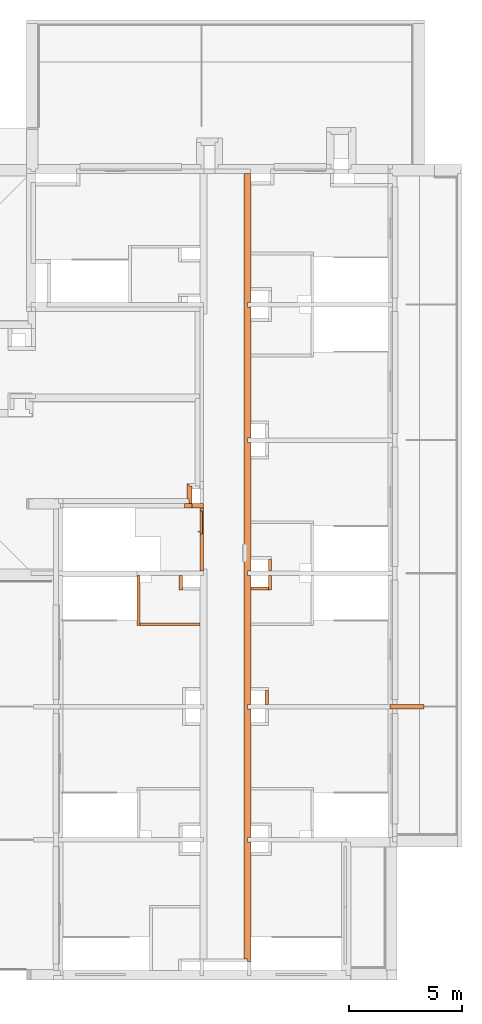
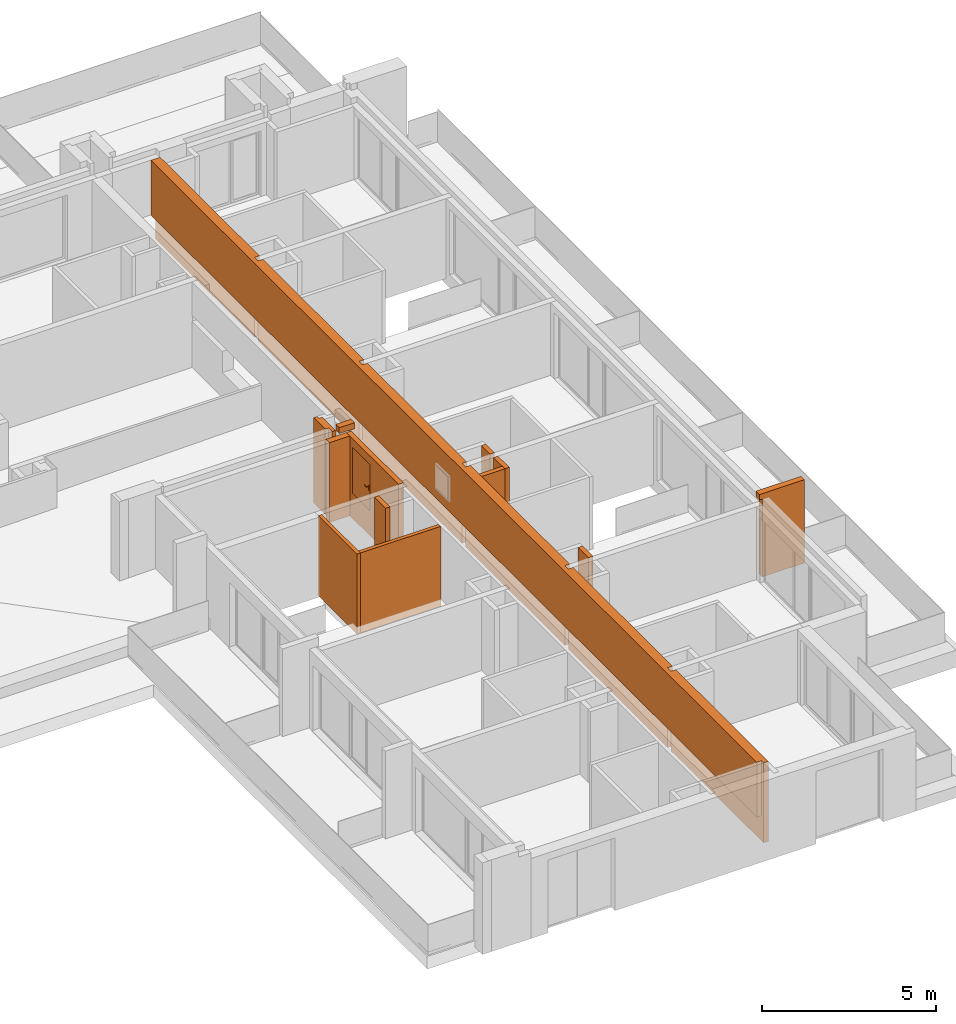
# One storey, part 28 of 30: 13 proxies, 1 opening.
"""IFC2X3 building model written with IfcOpenShell, lengths in millimetres."""

import ifcopenshell
import ifcopenshell.guid

model = None  # the IFC model being written
_history = None  # IfcOwnerHistory: only IFC2X3 demands one
_inside = {}  # id of a spatial element -> (the spatial element, [elements in it])
_under = {}  # id of a project, library or spatial element -> (it, [spatial elements below it])
_declared = {}  # id of a project -> (the project, [libraries it declares])
_typed = {}  # id of a type object -> (the type object, [elements of that type])
_made_of = {}  # id of a material, layer set ... -> (it, [elements and type objects made of it])


def new_model(schema):
    """Start an empty IFC model of exactly this schema.

    Asked for "IFC4X3", IfcOpenShell would pick the latest addendum, in which some entities
    have other attributes; the version numbers below select the first issue.
    IFC2X3 requires an IfcOwnerHistory on every rooted entity: one is made here for all.
    """
    global model, _history
    if schema == "IFC4X3":
        model = ifcopenshell.file(schema_version=(4, 3, 0, 0))
    else:
        model = ifcopenshell.file(schema=schema)
    _inside.clear()
    _under.clear()
    _declared.clear()
    _typed.clear()
    _made_of.clear()
    _history = None
    if model.schema == "IFC2X3":
        org = make("IfcOrganization", Name="unknown")
        user = make(
            "IfcPersonAndOrganization",
            ThePerson=make("IfcPerson", FamilyName="unknown"),
            TheOrganization=org,
        )
        app = make(
            "IfcApplication",
            ApplicationDeveloper=org,
            Version="unknown",
            ApplicationFullName="unknown",
            ApplicationIdentifier="unknown",
        )
        _history = make(
            "IfcOwnerHistory",
            OwningUser=user,
            OwningApplication=app,
            ChangeAction="ADDED",
            CreationDate=0,
        )
    return model


def make(cls, **values):
    """One entity of the class cls with the attributes given. An attribute that is None is left unset."""
    return model.create_entity(
        cls, **{name: value for name, value in values.items() if value is not None}
    )


def entity(cls, *values):
    """Any entity or typed value of the class cls, its attributes in the order of the schema. None: left unset."""
    e = model.create_entity(cls)
    for i, value in enumerate(values):
        if value is not None:
            e[i] = value
    return e


def rooted(cls, **values):
    """An entity with a GlobalId (a new one), such as an element, a storey or a relation."""
    return make(cls, GlobalId=ifcopenshell.guid.new(), OwnerHistory=_history, **values)


def si_unit(unit_type, name, prefix=None):
    """IfcSIUnit, for example si_unit("LENGTHUNIT", "METRE", prefix="MILLI")."""
    return make("IfcSIUnit", UnitType=unit_type, Prefix=prefix, Name=name)


def converted_unit(unit_type, name, factor, base, dimensions=None, offset=None):
    """IfcConversionBasedUnit, such as the inch: factor (a typed value) times the base unit."""
    return make(
        "IfcConversionBasedUnit"
        if offset is None
        else "IfcConversionBasedUnitWithOffset",
        ConversionOffset=offset,
        Dimensions=None
        if dimensions is None
        else entity("IfcDimensionalExponents", *dimensions),
        UnitType=unit_type,
        Name=name,
        ConversionFactor=make(
            "IfcMeasureWithUnit", ValueComponent=factor, UnitComponent=base
        ),
    )


def derived_unit(unit_type, elements):
    """IfcDerivedUnit: a product of units, each with its exponent."""
    return make(
        "IfcDerivedUnit",
        Elements=[
            make("IfcDerivedUnitElement", Unit=unit, Exponent=power)
            for unit, power in elements
        ],
        UnitType=unit_type,
    )


def money_unit(currency):
    """IfcMonetaryUnit."""
    return make("IfcMonetaryUnit", Currency=currency)


def assignment(units):
    """IfcUnitAssignment: the units of a project."""
    return None if units is None else make("IfcUnitAssignment", Units=units)


def point(xyz):
    """IfcCartesianPoint."""
    return None if xyz is None else make("IfcCartesianPoint", Coordinates=xyz)


def direction(xyz):
    """IfcDirection."""
    return None if xyz is None else make("IfcDirection", DirectionRatios=xyz)


def frame(location, z_axis=None, x_axis=None):
    """IfcAxis2Placement3D, a coordinate frame: its origin and axes. An axis left out is left unset."""
    return make(
        "IfcAxis2Placement3D",
        Location=point(location),
        Axis=direction(z_axis),
        RefDirection=direction(x_axis),
    )


def frame_2d(location, x_axis=None):
    """IfcAxis2Placement2D, a coordinate frame in the plane: its origin and x axis."""
    return make(
        "IfcAxis2Placement2D", Location=point(location), RefDirection=direction(x_axis)
    )


def origin_with_axes():
    """The frame at (0, 0, 0) with the z axis (0, 0, 1) and the x axis (1, 0, 0) written out."""
    return frame((0.0, 0.0, 0.0), z_axis=(0.0, 0.0, 1.0), x_axis=(1.0, 0.0, 0.0))


def origin_2d_with_axis():
    """The frame at (0, 0) in the plane with the x axis (1, 0) written out."""
    return frame_2d((0.0, 0.0), x_axis=(1.0, 0.0))


def place(relative_to, where):
    """IfcLocalPlacement: puts the frame where relative to a parent placement (None: the world)."""
    return make(
        "IfcLocalPlacement", PlacementRelTo=relative_to, RelativePlacement=where
    )


def context(
    kind, dimensions, precision=None, world=None, true_north=None, identifier=None
):
    """IfcGeometricRepresentationContext, for example the 3D "Model" context."""
    return make(
        "IfcGeometricRepresentationContext",
        ContextIdentifier=identifier,
        ContextType=kind,
        CoordinateSpaceDimension=dimensions,
        Precision=precision,
        WorldCoordinateSystem=world,
        TrueNorth=true_north,
    )


def subcontext(parent, identifier, kind, view, scale=None):
    """IfcGeometricRepresentationSubContext, for example "Body" below "Model"."""
    return make(
        "IfcGeometricRepresentationSubContext",
        ContextIdentifier=identifier,
        ContextType=kind,
        ParentContext=parent,
        TargetScale=scale,
        TargetView=view,
    )


def project(units=None, contexts=None):
    """IfcProject with its units and contexts."""
    return rooted(
        "IfcProject",
        Name="project",
        RepresentationContexts=contexts,
        UnitsInContext=assignment(units),
    )


def spatial(cls, under=None, at=None, **own):
    """A site, building, storey or space (cls), placed at a placement, below another one or the project."""
    s = rooted(cls, ObjectPlacement=at, **own)
    if under is not None:
        _under.setdefault(under.id(), (under, []))[1].append(s)
    return s


def profile(cls, at=None, kind="AREA", **sizes):
    """A parametric profile (cls). Its sizes go by their IFC names, for example OverallWidth=200.0."""
    return make(cls, ProfileType=kind, Position=at, **sizes)


def rectangle(**sizes):
    """IfcRectangleProfileDef."""
    return profile("IfcRectangleProfileDef", **sizes)


def extrude(swept, where, along, depth):
    """IfcExtrudedAreaSolid: the profile swept, set in the frame where, extruded along a direction by depth."""
    return make(
        "IfcExtrudedAreaSolid",
        SweptArea=swept,
        Position=where,
        ExtrudedDirection=direction(along),
        Depth=depth,
    )


def faces_of(points, faces, orient=None, outer=None):
    """IfcFace entities. A face is a list of loops; a loop is a list of indices into points, from 0.

    orient and outer hold one flag for each loop. By default every Orientation is true, the
    first loop of a face is its IfcFaceOuterBound and the others are IfcFaceBound.
    """
    made = []
    for i, loops in enumerate(faces):
        bounds = []
        for j, loop in enumerate(loops):
            is_outer = j == 0 if outer is None else outer[i][j]
            bounds.append(
                make(
                    "IfcFaceOuterBound" if is_outer else "IfcFaceBound",
                    Bound=make("IfcPolyLoop", Polygon=[points[k] for k in loop]),
                    Orientation=True if orient is None else orient[i][j],
                )
            )
        made.append(make("IfcFace", Bounds=bounds))
    return made


def open_shell(faces, orient=None, outer=None):
    """The faces of one IfcOpenShell. surface_model builds it on its shared points."""
    return ("IfcOpenShell", faces, orient, outer)


def faceted_brep(points, faces, orient=None, outer=None, voids=None):
    """IfcFacetedBrep: a solid bounded by flat faces; with voids (closed shells), ...WithVoids."""
    shared = [point(p) for p in points]
    hull = make("IfcClosedShell", CfsFaces=faces_of(shared, faces, orient, outer))
    if voids is None:
        return make("IfcFacetedBrep", Outer=hull)
    return make(
        "IfcFacetedBrepWithVoids",
        Outer=hull,
        Voids=[
            make(cls, CfsFaces=faces_of(shared, fs, o, b)) for cls, fs, o, b in voids
        ],
    )


def surface_model(cls, points, shells):
    """IfcFaceBasedSurfaceModel or IfcShellBasedSurfaceModel (cls): surfaces that need not close."""
    shared = [point(p) for p in points]
    made = [make(c, CfsFaces=faces_of(shared, fs, o, b)) for c, fs, o, b in shells]
    if cls == "IfcFaceBasedSurfaceModel":
        return make(cls, FbsmFaces=made)
    return make(cls, SbsmBoundary=made)


def shape(context_of_items, identifier, shape_type, items):
    """IfcShapeRepresentation: the items that make up one representation, for example the "Body"."""
    return make(
        "IfcShapeRepresentation",
        ContextOfItems=context_of_items,
        RepresentationIdentifier=identifier,
        RepresentationType=shape_type,
        Items=items,
    )


def material(Name=None, Category=None):
    """IfcMaterial."""
    return make("IfcMaterial", Name=Name, Category=Category)


def material_list(materials):
    """IfcMaterialList."""
    return make("IfcMaterialList", Materials=materials)


def made_of(thing, what):
    """Note that an element or type object is made of a material, layer set ...; save() writes the relation."""
    if what is not None:
        _made_of.setdefault(what.id(), (what, []))[1].append(thing)
    return thing


def type_object(cls, material=None, **own):
    """A type object (cls), such as IfcWallType, which elements share."""
    return made_of(rooted(cls, **own), material)


def element(
    cls,
    number,
    at=None,
    inside=None,
    cuts=None,
    type_object=None,
    material=None,
    context=None,
    identifier="Body",
    shape_type=None,
    held_by="IfcProductDefinitionShape",
    body=None,
    shapes=None,
    **own,
):
    """One element of the class cls, such as IfcWall. Its Tag is "e" and its number.

    at: its placement. inside: the storey or other place that contains it. cuts: it is an
    opening in that element (IfcRelVoidsElement). A single representation is given by context,
    identifier, shape_type and body (its items); several are given by shapes. held_by: the class
    of the entity that holds the representations. save() writes the other relations.
    """
    e = rooted(cls, Tag="e%d" % number, ObjectPlacement=at, **own)
    if body is not None:
        shapes = [shape(context, identifier, shape_type, body)]
    if shapes is not None:
        e.Representation = make(held_by, Representations=shapes)
    if inside is not None:
        _inside.setdefault(inside.id(), (inside, []))[1].append(e)
    if cuts is not None:
        rooted(
            "IfcRelVoidsElement", RelatingBuildingElement=cuts, RelatedOpeningElement=e
        )
    if type_object is not None:
        _typed.setdefault(type_object.id(), (type_object, []))[1].append(e)
    return made_of(e, material)


def fill(opening, filler):
    """IfcRelFillsElement: the door or window that sits in an opening."""
    return rooted(
        "IfcRelFillsElement",
        RelatingOpeningElement=opening,
        RelatedBuildingElement=filler,
    )


def aggregate(whole, parts):
    """IfcRelAggregates: a whole, such as a stair, and the parts it consists of."""
    return rooted("IfcRelAggregates", RelatingObject=whole, RelatedObjects=parts)


def save(model, path):
    """Write the relations noted so far, then the file.

    IfcRelAggregates (storeys below a building ...), IfcRelContainedInSpatialStructure (elements
    in a storey), IfcRelDefinesByType, IfcRelAssociatesMaterial and IfcRelDeclares: one each for
    every whole, place, type object, material and project.
    """
    for whole, parts in _under.values():
        aggregate(whole, parts)
    for where, things in _inside.values():
        rooted(
            "IfcRelContainedInSpatialStructure",
            RelatedElements=things,
            RelatingStructure=where,
        )
    for kind, things in _typed.values():
        rooted("IfcRelDefinesByType", RelatedObjects=things, RelatingType=kind)
    for what, things in _made_of.values():
        rooted("IfcRelAssociatesMaterial", RelatedObjects=things, RelatingMaterial=what)
    for by, libraries in _declared.values():
        rooted("IfcRelDeclares", RelatingContext=by, RelatedDefinitions=libraries)
    model.write(path)


model = new_model("IFC2X3")

# Units and contexts
model_context = context("Model", 3, precision=0.01, world=origin_with_axes(), true_north=direction((0.34421633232, 0.938890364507)))
body_context = subcontext(model_context, "Body", "Model", "MODEL_VIEW")
ifc_project = project(units=[si_unit("LENGTHUNIT", "METRE", prefix="MILLI"), si_unit("AREAUNIT", "SQUARE_METRE"), si_unit("VOLUMEUNIT", "CUBIC_METRE"), converted_unit("PLANEANGLEUNIT", "DEGREE", entity("IfcPlaneAngleMeasure", 0.0174532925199), si_unit("PLANEANGLEUNIT", "RADIAN"), dimensions=[0, 0, 0, 0, 0, 0, 0]), si_unit("SOLIDANGLEUNIT", "STERADIAN"), money_unit("USD"), converted_unit("TIMEUNIT", "Year", entity("IfcTimeMeasure", 31556926.0), si_unit("TIMEUNIT", "SECOND"), dimensions=[0, 0, 1, 0, 0, 0, 0]), si_unit("MASSUNIT", "GRAM", prefix="KILO"), si_unit("THERMODYNAMICTEMPERATUREUNIT", "DEGREE_CELSIUS"), si_unit("LUMINOUSINTENSITYUNIT", "LUMEN"), si_unit("ENERGYUNIT", "JOULE", prefix="MEGA"), derived_unit("THERMALCONDUCTANCEUNIT", [(si_unit("POWERUNIT", "WATT"), 1), (si_unit("LENGTHUNIT", "METRE"), -1), (si_unit("THERMODYNAMICTEMPERATUREUNIT", "KELVIN"), -1)]), derived_unit("SPECIFICHEATCAPACITYUNIT", [(si_unit("ENERGYUNIT", "JOULE"), 1), (si_unit("MASSUNIT", "GRAM", prefix="KILO"), -1), (si_unit("THERMODYNAMICTEMPERATUREUNIT", "KELVIN"), -1)]), derived_unit("MASSDENSITYUNIT", [(si_unit("MASSUNIT", "GRAM", prefix="KILO"), 1), (si_unit("VOLUMEUNIT", "CUBIC_METRE"), -1)])], contexts=[model_context])

# Site, building, storey
site_placement = place(None, origin_with_axes())
site = spatial("IfcSite", under=ifc_project, at=site_placement, Name="USTRONIE MORSKIE", CompositionType="ELEMENT")
building_placement = place(site_placement, origin_with_axes())
building = spatial("IfcBuilding", under=site, at=building_placement, Name="Budynek", CompositionType="ELEMENT")
storey_placement = place(building_placement, frame((0.0, 0.0, 16000.0), z_axis=(0.0, 0.0, 1.0), x_axis=(1.0, 0.0, 0.0)))
storey = spatial("IfcBuildingStorey", under=building, at=storey_placement, Name="ANTRESOLA - KOND. TECHNICZNA", CompositionType="ELEMENT", Elevation=16000.0)

# Proxies
ifc_material_1 = material(Name="Bloczki silikatowe")
building_element_proxy_type_1 = type_object("IfcBuildingElementProxyType", Name="Bloczki silikatowe 120", PredefinedType="NOTDEFINED")
proxy_1_placement = place(storey_placement, frame((413217.920919, 724641.180542, -159.999998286), z_axis=(0.0, 0.0, 1.0), x_axis=(1.0, 0.0, 0.0)))
element("IfcBuildingElementProxy", 1, at=proxy_1_placement, inside=storey, type_object=building_element_proxy_type_1, material=ifc_material_1, Name="SW-04", context=body_context, shape_type="Brep", body=[
    faceted_brep([(2720.0, 59.9999999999, 0.0), (2720.0, -59.9999999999, 0.0), (60.0, -59.9999999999, 0.0), (60.0, 59.9999999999, 0.0), (2720.0, 59.9999999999, 2799.99999829), (2720.0, -59.9999999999, 2799.99999829), (60.0, -59.9999999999, 2799.99999829), (60.0, 59.9999999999, 2799.99999829)], [[[0, 1, 2, 3]], [[1, 0, 4, 5]], [[1, 5, 6, 2]], [[7, 3, 2, 6]], [[4, 0, 3, 7]], [[5, 4, 7, 6]]]),
])
proxy_2_placement = place(storey_placement, frame((413217.920919, 724641.180542, -159.999998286), z_axis=(0.0, 0.0, 1.0), x_axis=(0.0, 1.0, 0.0)))
element("IfcBuildingElementProxy", 2, at=proxy_2_placement, inside=storey, type_object=building_element_proxy_type_1, material=ifc_material_1, Name="SW-04", context=body_context, shape_type="Brep", body=[
    faceted_brep([(2160.01849378, 60.0, 0.0), (2160.01849378, -60.0, 0.0), (-59.9999999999, -60.0, 0.0), (-59.9999999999, 60.0, 0.0), (2160.01849378, 60.0, 2799.99999829), (2160.01849378, -60.0, 2799.99999829), (-59.9999999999, -60.0, 2799.99999829), (-59.9999999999, 60.0, 2799.99999829)], [[[0, 1, 2, 3]], [[1, 0, 4, 5]], [[1, 5, 6, 2]], [[7, 3, 2, 6]], [[4, 0, 3, 7]], [[5, 4, 7, 6]]]),
])
building_element_proxy_type_2 = type_object("IfcBuildingElementProxyType", Name="Bloczki silikatowe 150", PredefinedType="NOTDEFINED")
proxy_3_placement = place(storey_placement, frame((418817.920919, 721701.229321, 0.0), z_axis=(0.0, 0.0, 1.0), x_axis=(0.0, -1.0, 0.0)))
element("IfcBuildingElementProxy", 3, at=proxy_3_placement, inside=storey, type_object=building_element_proxy_type_2, material=ifc_material_1, Name="SW-03", context=body_context, shape_type="Brep", body=[
    faceted_brep([(0.0, 0.0, 0.0), (0.0, 0.0, 2640.0), (0.0, 150.0, 2640.0), (0.0, 150.0, 0.0), (600.016190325, 0.0, 2640.0), (600.016190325, 0.0, 0.0), (600.016328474, 150.0, 2640.0), (600.016328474, 150.0, 0.0)], [[[0, 1, 2, 3]], [[4, 1, 0, 5]], [[6, 2, 1, 4]], [[3, 2, 6, 7]], [[0, 3, 7, 5]], [[7, 6, 4, 5]]]),
])
proxy_4_placement = place(storey_placement, frame((419042.92182, 727576.193419, -160.0), z_axis=(0.0, 0.0, 1.0), x_axis=(0.0, -1.0, 0.0)))
element("IfcBuildingElementProxy", 4, at=proxy_4_placement, inside=storey, type_object=building_element_proxy_type_2, material=ifc_material_1, Name="SW-03", context=body_context, shape_type="Brep", body=[
    faceted_brep([(75.0, -75.0, 2800.0), (574.994383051, -75.0, 2800.0), (574.994383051, 75.0, 2800.0), (75.0, 75.0, 2800.0), (75.0, -75.0, 0.0), (574.994383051, -75.0, 0.0), (574.994383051, 75.0, 0.0), (75.0, 75.0, 0.0)], [[[0, 1, 2, 3]], [[4, 5, 1, 0]], [[5, 6, 2, 1]], [[3, 2, 6, 7]], [[3, 7, 4, 0]], [[7, 6, 5, 4]]]),
])
proxy_5_placement = place(storey_placement, frame((419042.92182, 726226.191662, -160.0), z_axis=(0.0, 0.0, 1.0), x_axis=(-1.0, 0.0, 0.0)))
element("IfcBuildingElementProxy", 5, at=proxy_5_placement, inside=storey, type_object=building_element_proxy_type_2, material=ifc_material_1, Name="SW-03", context=body_context, shape_type="Brep", body=[
    faceted_brep([(845.00090117, 75.0, 0.0), (845.00090117, -75.0, 0.0), (75.0, -75.0, 0.0), (75.0, 75.0, 0.0), (845.00090117, 75.0, 2800.0), (845.00090117, -75.0, 2800.0), (75.0, -75.0, 2800.0), (75.0, 75.0, 2800.0)], [[[0, 1, 2, 3]], [[1, 0, 4, 5]], [[1, 5, 6, 2]], [[7, 3, 2, 6]], [[4, 0, 3, 7]], [[5, 4, 7, 6]]]),
])
proxy_6_placement = place(storey_placement, frame((415092.920018, 726901.199036, -160.0), z_axis=(0.0, 0.0, 1.0), x_axis=(0.0, -1.0, 0.0)))
element("IfcBuildingElementProxy", 6, at=proxy_6_placement, inside=storey, type_object=building_element_proxy_type_2, material=ifc_material_1, Name="SW-03", context=body_context, shape_type="Brep", body=[
    faceted_brep([(750.007374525, -75.0, 2800.0), (750.007374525, 75.0, 2800.0), (100.0, 75.0, 2800.0), (100.0, -75.0, 2800.0), (750.007374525, -75.0, 0.0), (750.007374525, 75.0, 0.0), (100.0, 75.0, 0.0), (100.0, -75.0, 0.0)], [[[0, 1, 2, 3]], [[1, 0, 4, 5]], [[1, 5, 6, 2]], [[7, 3, 2, 6]], [[4, 0, 3, 7]], [[5, 4, 7, 6]]]),
])
proxy_7_placement = place(storey_placement, frame((419042.92182, 726901.199036, -160.0), z_axis=(0.0, 0.0, 1.0), x_axis=(0.0, -1.0, 0.0)))
element("IfcBuildingElementProxy", 7, at=proxy_7_placement, inside=storey, type_object=building_element_proxy_type_2, material=ifc_material_1, Name="SW-03", context=body_context, shape_type="Brep", body=[
    faceted_brep([(750.007374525, 75.0, 0.0), (750.007374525, -75.0, 0.0), (100.0, -75.0, 0.0), (100.0, 75.0, 0.0), (750.007374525, 75.0, 2800.0), (750.007374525, -75.0, 2800.0), (100.0, -75.0, 2800.0), (100.0, 75.0, 2800.0)], [[[0, 1, 2, 3]], [[1, 0, 4, 5]], [[1, 5, 6, 2]], [[7, 3, 2, 6]], [[4, 0, 3, 7]], [[5, 4, 7, 6]]]),
])
ifc_material_2 = material(Name="Beton konstrukcyjny B25")
building_element_proxy_type_3 = type_object("IfcBuildingElementProxyType", Name="Beton konstrukcyjny B25 200", PredefinedType="NOTDEFINED")
proxy_8_placement = place(storey_placement, frame((425867.920919, 721001.208019, 110.0), z_axis=(0.0, 0.0, 1.0), x_axis=(-1.0, 0.0, 0.0)))
element("IfcBuildingElementProxy", 8, at=proxy_8_placement, inside=storey, type_object=building_element_proxy_type_3, material=ifc_material_2, Name="SW-01", context=body_context, shape_type="Brep", body=[
    faceted_brep([(1400.0, -99.9999079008, 2730.0), (1500.0, -100.0, 2730.0), (1500.0, -100.0, 2920.0), (0.0, -100.0, 2920.0), (0.0, -100.0, 0.0), (1400.0, -99.9999079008, 0.0), (1500.0, 100.0, 2730.0), (1400.0, 100.000092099, 2730.0), (1500.0, 100.0, 2920.0), (0.0, 100.0, 2920.0), (0.0, 100.0, 0.0), (1400.0, 100.000092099, 0.0)], [[[0, 1, 2, 3, 4, 5]], [[6, 1, 0, 7]], [[2, 1, 6, 8]], [[8, 9, 3, 2]], [[3, 9, 10, 4]], [[4, 10, 11, 5]], [[11, 7, 0, 5]], [[6, 7, 11, 10, 9, 8]]]),
])
proxy_9_placement = place(storey_placement, frame((415587.920919, 729901.198705, -160.0), z_axis=(0.0, 0.0, 1.0), x_axis=(1.0, 0.0, 0.0)))
element("IfcBuildingElementProxy", 9, at=proxy_9_placement, inside=storey, type_object=building_element_proxy_type_3, material=ifc_material_2, Name="SZ-01", context=body_context, shape_type="Brep", body=[
    faceted_brep([(-330.0, 100.000314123, 2800.0), (330.0, 100.000314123, 2800.0), (350.0, 100.0, 2800.0), (350.0, 100.0, 0.0), (-330.0, 100.0, 0.0), (-330.0, -100.0, 2800.0), (350.0, -100.0, 2800.0), (350.0, -100.0, 0.0), (-330.0, -100.0, 0.0)], [[[0, 1, 2, 3, 4]], [[5, 6, 2, 1, 0]], [[3, 2, 6, 7]], [[8, 4, 3, 7]], [[8, 5, 0, 4]], [[7, 6, 5, 8]]]),
    faceted_brep([(510.0, -100.0, 3000.0), (350.0, -100.0, 3000.0), (350.0, 100.0, 3000.0), (510.0, 100.0, 3000.0), (0.0, -100.0, 3000.0), (510.0, -100.0, 3210.0), (0.0, -100.0, 3210.0), (0.0, 100.000314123, 3000.0), (0.0, 100.0, 3210.0), (510.0, 100.0, 3210.0)], [[[0, 1, 2, 3]], [[4, 1, 0, 5, 6]], [[7, 2, 1, 4]], [[3, 2, 7, 8, 9]], [[9, 5, 0, 3]], [[9, 8, 6, 5]], [[8, 7, 4, 6]]]),
])

# Proxies, opening
building_element_proxy_type_4 = type_object("IfcBuildingElementProxyType", Name="Beton konstrukcyjny B25 160", PredefinedType="NOTDEFINED")
proxy_10_placement = place(storey_placement, frame((416017.920919, 729901.199019, -160.0), z_axis=(0.0, 0.0, 1.0), x_axis=(0.0, -1.0, 0.0)))
proxy_10 = element("IfcBuildingElementProxy", 10, at=proxy_10_placement, inside=storey, type_object=building_element_proxy_type_4, material=ifc_material_2, Name="SW-01", context=body_context, shape_type="Brep", body=[
    faceted_brep([(-99.9996858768, -80.0, 0.0), (-99.9996858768, -80.0, 2800.0), (-99.9996858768, 80.0, 2800.0), (-99.9996858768, 80.0, 0.0), (2899.99998246, -80.0, 0.0), (2899.99998246, -80.0, 2800.0), (2899.99998246, 80.0, 2800.0), (2899.99998246, 80.0, 0.0)], [[[0, 1, 2, 3]], [[4, 5, 1, 0]], [[5, 6, 2, 1]], [[3, 2, 6, 7]], [[0, 3, 7, 4]], [[7, 6, 5, 4]]]),
])
opening_placement = place(proxy_10_placement, frame((749.999996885, 0.0, 880.0), z_axis=(0.0, 0.0, 1.0), x_axis=(1.0, 0.0, 0.0)))
opening = element("IfcOpeningElement", 11, at=opening_placement, cuts=proxy_10, context=body_context, shape_type="SweptSolid", body=[
    extrude(rectangle(XDim=1020.0, YDim=1620.0, at=origin_2d_with_axis()), frame((0.0, 160.0, 810.0), z_axis=(0.0, -1.0, 0.0), x_axis=(-1.0, 0.0, 0.0)), (0.0, 0.0, 1.0), 480.0),
])
building_element_proxy_type_5 = type_object("IfcBuildingElementProxyType", Name="Drzwi 23", PredefinedType="NOTDEFINED")
proxy_11_placement = place(opening_placement, frame((450.0, 0.0, 0.0), z_axis=(0.0, 0.0, 1.0), x_axis=(-1.0, 0.0, 0.0)))
proxy_11 = element("IfcBuildingElementProxy", 12, at=proxy_11_placement, inside=storey, type_object=building_element_proxy_type_5, context=body_context, shape_type="SurfaceModel", body=[
    faceted_brep([(0.0, 40.0, 0.0), (0.0, 40.0, 1550.0), (0.0, -35.0, 1550.0), (0.0, -35.0, 0.0), (-11.9999999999, 40.0, 1550.0), (-11.9999999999, 40.0, 0.0), (-11.9999999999, 80.0, 1550.0), (-59.9999999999, 80.0, 1550.0), (-59.9999999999, -35.0, 1550.0), (-59.9999999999, -35.0, 0.0), (-59.9999999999, 80.0, 0.0), (-11.9999999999, 80.0, 0.0)], [[[0, 1, 2, 3]], [[4, 1, 0, 5]], [[4, 6, 7, 8, 2, 1]], [[3, 2, 8, 9]], [[5, 0, 3, 9, 10, 11]], [[6, 4, 5, 11]], [[6, 11, 10, 7]], [[10, 9, 8, 7]]]),
    faceted_brep([(912.0, 40.0, 1550.0), (900.0, 40.0, 1550.0), (900.0, -35.0, 1550.0), (960.0, -35.0, 1550.0), (960.0, 80.0, 1550.0), (912.0, 80.0, 1550.0), (912.0, 40.0, 0.0), (900.0, 40.0, 0.0), (900.0, -35.0, 0.0), (960.0, -35.0, 0.0), (960.0, 80.0, 0.0), (912.0, 80.0, 0.0)], [[[0, 1, 2, 3, 4, 5]], [[1, 0, 6, 7]], [[1, 7, 8, 2]], [[3, 2, 8, 9]], [[4, 3, 9, 10]], [[11, 5, 4, 10]], [[0, 5, 11, 6]], [[6, 11, 10, 9, 8, 7]]]),
    faceted_brep([(-11.9999999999, 80.0, 1562.0), (-11.9999999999, 80.0, 1550.0), (-59.9999999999, 80.0, 1550.0), (-59.9999999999, 80.0, 1620.0), (960.0, 80.0, 1620.0), (960.0, 80.0, 1550.0), (912.0, 80.0, 1550.0), (912.0, 80.0, 1562.0), (-11.9999999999, 40.0, 1562.0), (-11.9999999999, 40.0, 1550.0), (0.0, 40.0, 1550.0), (0.0, -35.0, 1550.0), (-59.9999999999, -35.0, 1550.0), (-59.9999999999, -35.0, 1620.0), (960.0, -35.0, 1620.0), (960.0, -35.0, 1550.0), (912.0, 40.0, 1550.0), (900.0, -35.0, 1550.0), (900.0, 40.0, 1550.0), (912.0, 40.0, 1562.0)], [[[0, 1, 2, 3, 4, 5, 6, 7]], [[1, 0, 8, 9]], [[9, 10, 11, 12, 2, 1]], [[2, 12, 13, 3]], [[3, 13, 14, 4]], [[4, 14, 15, 5]], [[16, 6, 5, 15, 17, 18]], [[7, 6, 16, 19]], [[0, 7, 19, 8]], [[16, 18, 10, 9, 8, 19]], [[10, 18, 17, 11]], [[17, 15, 14, 13, 12, 11]]]),
    faceted_brep([(9.5, 40.0, 860.0), (9.5, 37.0, 860.0), (66.5, 37.0, 860.0), (66.5, 40.0, 860.0), (9.5, 40.0, 670.0), (9.5, 37.0, 670.0), (66.5, 37.0, 670.0), (66.5, 40.0, 670.0)], [[[0, 1, 2, 3]], [[4, 5, 1, 0]], [[1, 5, 6, 2]], [[3, 2, 6, 7]], [[0, 3, 7, 4]], [[7, 6, 5, 4]]]),
    faceted_brep([(38.0, -24.0, 790.0), (38.0, -31.0, 790.0), (33.0, -31.0, 791.339745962), (33.0, -24.0, 791.339745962), (63.0000000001, -24.0, 790.0), (63.0000000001, -31.0, 790.0), (63.0000000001, -31.0, 810.0), (38.0, -31.0, 810.0), (33.0, -31.0, 808.660254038), (29.3397459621, -31.0, 805.0), (28.0, -31.0, 800.0), (29.3397459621, -31.0, 795.0), (29.3397459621, -24.0, 795.0), (28.0, -24.0, 800.0), (29.3397459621, -24.0, 805.0), (33.0, -24.0, 808.660254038), (38.0, -24.0, 810.0), (63.0000000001, -24.0, 810.0)], [[[0, 1, 2, 3]], [[4, 5, 1, 0]], [[1, 5, 6, 7, 8, 9, 10, 11, 2]], [[3, 2, 11, 12]], [[0, 3, 12, 13, 14, 15, 16, 17, 4]], [[17, 6, 5, 4]], [[16, 7, 6, 17]], [[15, 8, 7, 16]], [[14, 9, 8, 15]], [[13, 10, 9, 14]], [[12, 11, 10, 13]]]),
    surface_model("IfcShellBasedSurfaceModel", [(63.0000000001, -24.0, 810.0), (76.403909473, -31.0, 809.607300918), (76.0982828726, -24.0, 809.607300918), (63.0000000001, -31.0, 810.0), (103.109716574, -28.6635446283, 808.821902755), (76.0982828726, -24.0, 790.392699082), (63.0000000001, -24.0, 790.0), (63.0000000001, -31.0, 790.0), (76.403909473, -31.0, 790.392699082), (103.109716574, -28.6635446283, 791.178097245), (102.195162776, -21.7168188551, 808.821902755), (102.195162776, -21.7168188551, 791.178097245), (129.510264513, -24.0084157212, 791.963495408), (129.510264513, -24.0084157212, 808.036504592), (127.993743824, -17.1678329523, 808.036504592), (127.993743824, -17.1678329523, 791.963495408), (155.40462918, -17.0700416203, 792.748893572), (155.40462918, -17.0700416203, 807.251106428), (153.297683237, -10.3876628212, 807.251106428), (153.297683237, -10.3876628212, 792.748893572), (163.461204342, -14.1376880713, 793.0), (163.461204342, -14.1376880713, 807.0), (161.170557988, -7.5221707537, 807.0), (161.170557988, -7.5221707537, 793.0)], [open_shell([[[0, 1, 2]], [[0, 3, 1]], [[2, 1, 4]], [[0, 2, 5, 6]], [[3, 7, 8, 1]], [[1, 8, 9, 4]], [[2, 4, 10]], [[2, 10, 11, 5]], [[5, 7, 6]], [[5, 8, 7]], [[11, 9, 8]], [[4, 9, 12, 13]], [[10, 4, 13]], [[10, 14, 15, 11]], [[11, 8, 5]], [[15, 9, 11]], [[15, 12, 9]], [[13, 12, 16, 17]], [[10, 13, 14]], [[14, 18, 19, 15]], [[19, 12, 15]], [[19, 16, 12]], [[17, 16, 20, 21]], [[14, 13, 17]], [[14, 17, 18]], [[18, 22, 23, 19]], [[23, 16, 19]], [[23, 20, 16]], [[22, 21, 20, 23]], [[18, 17, 21]], [[18, 21, 22]]])]),
    faceted_brep([(48.3923048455, 27.0, 794.0), (49.2583302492, 37.0, 793.5), (51.0, 37.0, 800.0), (50.0000000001, 27.0, 800.0), (44.0000000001, 27.0, 789.607695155), (44.5000000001, 37.0, 788.741669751), (38.0, 37.0, 787.0), (31.5000000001, 37.0, 788.741669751), (26.7416697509, 37.0, 793.5), (25.0000000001, 37.0, 800.0), (26.7416697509, 37.0, 806.5), (31.5000000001, 37.0, 811.258330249), (38.0, 37.0, 813.0), (44.5000000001, 37.0, 811.258330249), (49.2583302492, 37.0, 806.5), (48.3923048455, 27.0, 806.0), (44.0000000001, 27.0, 810.392304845), (38.0, 27.0, 812.0), (32.0, 27.0, 810.392304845), (27.6076951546, 27.0, 806.0), (26.0000000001, 27.0, 800.0), (27.6076951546, 27.0, 794.0), (32.0, 27.0, 789.607695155), (38.0, 27.0, 788.0)], [[[0, 1, 2, 3]], [[4, 5, 1, 0]], [[2, 1, 5, 6, 7, 8, 9, 10, 11, 12, 13, 14]], [[3, 2, 14, 15]], [[3, 15, 16, 17, 18, 19, 20, 21, 22, 23, 4, 0]], [[23, 6, 5, 4]], [[22, 7, 6, 23]], [[21, 8, 7, 22]], [[20, 9, 8, 21]], [[19, 10, 9, 20]], [[18, 11, 10, 19]], [[17, 12, 11, 18]], [[16, 13, 12, 17]], [[15, 14, 13, 16]]]),
    faceted_brep([(55.3205080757, 33.0, 695.0), (57.0525588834, 37.0, 694.0), (60.0000000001, 37.0, 705.0), (58.0, 33.0, 705.0), (48.0, 33.0, 687.679491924), (49.0000000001, 37.0, 685.947441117), (38.0, 37.0, 683.0), (27.0, 37.0, 685.947441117), (18.9474411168, 37.0, 694.0), (16.0000000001, 37.0, 705.0), (18.9474411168, 37.0, 716.0), (27.0, 37.0, 724.052558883), (38.0, 37.0, 727.0), (49.0000000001, 37.0, 724.052558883), (57.0525588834, 37.0, 716.0), (55.3205080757, 33.0, 715.0), (48.0, 33.0, 722.320508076), (38.0, 33.0, 725.0), (28.0, 33.0, 722.320508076), (20.6794919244, 33.0, 715.0), (18.0, 33.0, 705.0), (20.6794919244, 33.0, 695.0), (28.0, 33.0, 687.679491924), (38.0, 33.0, 685.0)], [[[0, 1, 2, 3]], [[4, 5, 1, 0]], [[2, 1, 5, 6, 7, 8, 9, 10, 11, 12, 13, 14]], [[3, 2, 14, 15]], [[3, 15, 16, 17, 18, 19, 20, 21, 22, 23, 4, 0]], [[23, 6, 5, 4]], [[22, 7, 6, 23]], [[21, 8, 7, 22]], [[20, 9, 8, 21]], [[19, 10, 9, 20]], [[18, 11, 10, 19]], [[17, 12, 11, 18]], [[16, 13, 12, 17]], [[15, 14, 13, 16]]]),
    faceted_brep([(42.9497474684, 31.0, 709.050252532), (43.6568542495, 33.0, 708.343145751), (46.0, 33.0, 714.0), (45.0000000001, 31.0, 714.0), (38.0, 31.0, 707.0), (38.0, 33.0, 706.0), (32.3431457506, 33.0, 708.343145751), (30.0000000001, 33.0, 714.0), (32.3431457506, 33.0, 719.656854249), (38.0, 33.0, 722.0), (43.6568542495, 33.0, 719.656854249), (42.9497474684, 31.0, 718.949747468), (38.0, 31.0, 721.0), (33.0502525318, 31.0, 718.949747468), (31.0000000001, 31.0, 714.0), (33.0502525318, 31.0, 709.050252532)], [[[0, 1, 2, 3]], [[4, 5, 1, 0]], [[2, 1, 5, 6, 7, 8, 9, 10]], [[3, 2, 10, 11]], [[3, 11, 12, 13, 14, 15, 4, 0]], [[15, 6, 5, 4]], [[14, 7, 6, 15]], [[13, 8, 7, 14]], [[12, 9, 8, 13]], [[11, 10, 9, 12]]]),
    faceted_brep([(38.0, 27.0, 810.0), (38.0, -24.0, 810.0), (43.0, -24.0, 808.660254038), (43.0, 27.0, 808.660254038), (33.0, 27.0, 808.660254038), (33.0, -24.0, 808.660254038), (29.3397459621, -24.0, 805.0), (28.0, -24.0, 800.0), (29.3397459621, -24.0, 795.0), (33.0, -24.0, 791.339745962), (38.0, -24.0, 790.0), (43.0, -24.0, 791.339745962), (46.6602540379, -24.0, 795.0), (48.0, -24.0, 800.0), (46.6602540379, -24.0, 805.0), (46.6602540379, 27.0, 805.0), (48.0, 27.0, 800.0), (46.6602540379, 27.0, 795.0), (43.0, 27.0, 791.339745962), (38.0, 27.0, 790.0), (33.0, 27.0, 791.339745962), (29.3397459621, 27.0, 795.0), (28.0, 27.0, 800.0), (29.3397459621, 27.0, 805.0)], [[[0, 1, 2, 3]], [[4, 5, 1, 0]], [[1, 5, 6, 7, 8, 9, 10, 11, 12, 13, 14, 2]], [[3, 2, 14, 15]], [[0, 3, 15, 16, 17, 18, 19, 20, 21, 22, 23, 4]], [[23, 6, 5, 4]], [[22, 7, 6, 23]], [[21, 8, 7, 22]], [[20, 9, 8, 21]], [[19, 10, 9, 20]], [[18, 11, 10, 19]], [[17, 12, 11, 18]], [[16, 13, 12, 17]], [[15, 14, 13, 16]]]),
    faceted_brep([(9.5, 80.0, 860.0), (66.5, 80.0, 860.0), (66.5, 83.0, 860.0), (9.5, 83.0, 860.0), (9.5, 80.0, 670.0), (66.5, 80.0, 670.0), (66.5, 83.0, 670.0), (9.5, 83.0, 670.0)], [[[0, 1, 2, 3]], [[0, 4, 5, 1]], [[1, 5, 6, 2]], [[3, 2, 6, 7]], [[4, 0, 3, 7]], [[5, 4, 7, 6]]]),
    faceted_brep([(38.0, 144.0, 790.0), (33.0, 144.0, 791.339745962), (33.0, 151.0, 791.339745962), (38.0, 151.0, 790.0), (63.0000000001, 144.0, 790.0), (63.0000000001, 144.0, 810.0), (38.0, 144.0, 810.0), (33.0, 144.0, 808.660254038), (29.3397459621, 144.0, 805.0), (28.0, 144.0, 800.0), (29.3397459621, 144.0, 795.0), (29.3397459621, 151.0, 795.0), (28.0, 151.0, 800.0), (29.3397459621, 151.0, 805.0), (33.0, 151.0, 808.660254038), (38.0, 151.0, 810.0), (63.0000000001, 151.0, 810.0), (63.0000000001, 151.0, 790.0)], [[[0, 1, 2, 3]], [[0, 4, 5, 6, 7, 8, 9, 10, 1]], [[1, 10, 11, 2]], [[3, 2, 11, 12, 13, 14, 15, 16, 17]], [[4, 0, 3, 17]], [[5, 4, 17, 16]], [[6, 5, 16, 15]], [[7, 6, 15, 14]], [[8, 7, 14, 13]], [[9, 8, 13, 12]], [[10, 9, 12, 11]]]),
    surface_model("IfcShellBasedSurfaceModel", [(63.0000000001, 144.0, 810.0), (76.0982828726, 144.0, 809.607300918), (76.403909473, 151.0, 809.607300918), (63.0000000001, 144.0, 790.0), (76.0982828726, 144.0, 790.392699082), (103.109716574, 148.663544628, 808.821902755), (63.0000000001, 151.0, 810.0), (63.0000000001, 151.0, 790.0), (102.195162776, 141.716818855, 791.178097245), (102.195162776, 141.716818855, 808.821902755), (103.109716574, 148.663544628, 791.178097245), (76.403909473, 151.0, 790.392699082), (127.993743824, 137.167832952, 791.963495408), (127.993743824, 137.167832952, 808.036504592), (129.510264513, 144.008415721, 808.036504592), (129.510264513, 144.008415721, 791.963495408), (153.297683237, 130.387662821, 792.748893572), (153.297683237, 130.387662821, 807.251106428), (155.40462918, 137.07004162, 807.251106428), (155.40462918, 137.07004162, 792.748893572), (161.170557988, 127.522170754, 793.0), (161.170557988, 127.522170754, 807.0), (163.461204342, 134.137688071, 807.0), (163.461204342, 134.137688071, 793.0)], [open_shell([[[0, 1, 2]], [[0, 3, 4, 1]], [[1, 5, 2]], [[0, 2, 6]], [[4, 3, 7]], [[1, 4, 8, 9]], [[1, 9, 5]], [[2, 5, 10, 11]], [[6, 2, 11, 7]], [[4, 7, 11]], [[8, 4, 11]], [[9, 8, 12, 13]], [[9, 14, 5]], [[5, 14, 15, 10]], [[8, 11, 10]], [[12, 8, 10]], [[13, 12, 16, 17]], [[9, 13, 14]], [[14, 18, 19, 15]], [[12, 10, 15]], [[16, 12, 15]], [[17, 16, 20, 21]], [[13, 17, 18]], [[13, 18, 14]], [[18, 22, 23, 19]], [[16, 15, 19]], [[20, 16, 19]], [[21, 20, 23, 22]], [[17, 21, 22]], [[17, 22, 18]], [[20, 19, 23]]])]),
    faceted_brep([(48.3923048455, 93.0, 794.0), (50.0000000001, 93.0, 800.0), (51.0, 83.0, 800.0), (49.2583302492, 83.0, 793.5), (44.0000000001, 93.0, 789.607695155), (38.0, 93.0, 788.0), (32.0, 93.0, 789.607695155), (27.6076951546, 93.0, 794.0), (26.0000000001, 93.0, 800.0), (27.6076951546, 93.0, 806.0), (32.0, 93.0, 810.392304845), (38.0, 93.0, 812.0), (44.0000000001, 93.0, 810.392304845), (48.3923048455, 93.0, 806.0), (49.2583302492, 83.0, 806.5), (44.5000000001, 83.0, 811.258330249), (38.0, 83.0, 813.0), (31.5000000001, 83.0, 811.258330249), (26.7416697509, 83.0, 806.5), (25.0000000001, 83.0, 800.0), (26.7416697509, 83.0, 793.5), (31.5000000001, 83.0, 788.741669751), (38.0, 83.0, 787.0), (44.5000000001, 83.0, 788.741669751)], [[[0, 1, 2, 3]], [[1, 0, 4, 5, 6, 7, 8, 9, 10, 11, 12, 13]], [[1, 13, 14, 2]], [[2, 14, 15, 16, 17, 18, 19, 20, 21, 22, 23, 3]], [[4, 0, 3, 23]], [[5, 4, 23, 22]], [[6, 5, 22, 21]], [[7, 6, 21, 20]], [[8, 7, 20, 19]], [[9, 8, 19, 18]], [[10, 9, 18, 17]], [[11, 10, 17, 16]], [[12, 11, 16, 15]], [[13, 12, 15, 14]]]),
    faceted_brep([(55.3205080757, 87.0, 695.0), (58.0, 87.0, 705.0), (60.0000000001, 83.0, 705.0), (57.0525588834, 83.0, 694.0), (48.0, 87.0, 687.679491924), (38.0, 87.0, 685.0), (28.0, 87.0, 687.679491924), (20.6794919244, 87.0, 695.0), (18.0, 87.0, 705.0), (20.6794919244, 87.0, 715.0), (28.0, 87.0, 722.320508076), (38.0, 87.0, 725.0), (48.0, 87.0, 722.320508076), (55.3205080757, 87.0, 715.0), (57.0525588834, 83.0, 716.0), (49.0000000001, 83.0, 724.052558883), (38.0, 83.0, 727.0), (27.0, 83.0, 724.052558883), (18.9474411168, 83.0, 716.0), (16.0000000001, 83.0, 705.0), (18.9474411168, 83.0, 694.0), (27.0, 83.0, 685.947441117), (38.0, 83.0, 683.0), (49.0000000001, 83.0, 685.947441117)], [[[0, 1, 2, 3]], [[1, 0, 4, 5, 6, 7, 8, 9, 10, 11, 12, 13]], [[1, 13, 14, 2]], [[2, 14, 15, 16, 17, 18, 19, 20, 21, 22, 23, 3]], [[4, 0, 3, 23]], [[5, 4, 23, 22]], [[6, 5, 22, 21]], [[7, 6, 21, 20]], [[8, 7, 20, 19]], [[9, 8, 19, 18]], [[10, 9, 18, 17]], [[11, 10, 17, 16]], [[12, 11, 16, 15]], [[13, 12, 15, 14]]]),
    faceted_brep([(42.9497474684, 89.0, 709.050252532), (45.0000000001, 89.0, 714.0), (46.0, 87.0, 714.0), (43.6568542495, 87.0, 708.343145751), (38.0, 89.0, 707.0), (33.0502525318, 89.0, 709.050252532), (31.0000000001, 89.0, 714.0), (33.0502525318, 89.0, 718.949747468), (38.0, 89.0, 721.0), (42.9497474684, 89.0, 718.949747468), (43.6568542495, 87.0, 719.656854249), (38.0, 87.0, 722.0), (32.3431457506, 87.0, 719.656854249), (30.0000000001, 87.0, 714.0), (32.3431457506, 87.0, 708.343145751), (38.0, 87.0, 706.0)], [[[0, 1, 2, 3]], [[1, 0, 4, 5, 6, 7, 8, 9]], [[1, 9, 10, 2]], [[2, 10, 11, 12, 13, 14, 15, 3]], [[4, 0, 3, 15]], [[5, 4, 15, 14]], [[6, 5, 14, 13]], [[7, 6, 13, 12]], [[8, 7, 12, 11]], [[9, 8, 11, 10]]]),
    faceted_brep([(38.0, 93.0, 810.0), (43.0, 93.0, 808.660254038), (43.0, 144.0, 808.660254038), (38.0, 144.0, 810.0), (33.0, 93.0, 808.660254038), (29.3397459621, 93.0, 805.0), (28.0, 93.0, 800.0), (29.3397459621, 93.0, 795.0), (33.0, 93.0, 791.339745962), (38.0, 93.0, 790.0), (43.0, 93.0, 791.339745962), (46.6602540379, 93.0, 795.0), (48.0, 93.0, 800.0), (46.6602540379, 93.0, 805.0), (46.6602540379, 144.0, 805.0), (48.0, 144.0, 800.0), (46.6602540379, 144.0, 795.0), (43.0, 144.0, 791.339745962), (38.0, 144.0, 790.0), (33.0, 144.0, 791.339745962), (29.3397459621, 144.0, 795.0), (28.0, 144.0, 800.0), (29.3397459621, 144.0, 805.0), (33.0, 144.0, 808.660254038)], [[[0, 1, 2, 3]], [[0, 4, 5, 6, 7, 8, 9, 10, 11, 12, 13, 1]], [[1, 13, 14, 2]], [[3, 2, 14, 15, 16, 17, 18, 19, 20, 21, 22, 23]], [[4, 0, 3, 23]], [[5, 4, 23, 22]], [[6, 5, 22, 21]], [[7, 6, 21, 20]], [[8, 7, 20, 19]], [[9, 8, 19, 18]], [[10, 9, 18, 17]], [[11, 10, 17, 16]], [[12, 11, 16, 15]], [[13, 12, 15, 14]]]),
    faceted_brep([(912.0, 80.0, 0.0), (912.0, 40.0, 0.0), (-11.9999999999, 40.0, 0.0), (-11.9999999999, 80.0, 0.0), (912.0, 80.0, 1562.0), (912.0, 40.0, 1562.0), (-11.9999999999, 40.0, 1562.0), (-11.9999999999, 80.0, 1562.0)], [[[0, 1, 2, 3]], [[4, 5, 1, 0]], [[1, 5, 6, 2]], [[3, 2, 6, 7]], [[0, 3, 7, 4]], [[7, 6, 5, 4]]]),
])
fill(opening, proxy_11)

# Proxies
ifc_material_3 = material(Name="Izolacja akustyczna")
ifc_material_list_1 = material_list([ifc_material_2, ifc_material_3])
building_element_proxy_type_6 = type_object("IfcBuildingElementProxyType", Name="16+15 AKU 310", PredefinedType="NOTDEFINED")
proxy_12_placement = place(storey_placement, frame((418117.920919, 744701.199036, -160.0), z_axis=(0.0, 0.0, 1.0), x_axis=(0.0, -1.0, 0.0)))
element("IfcBuildingElementProxy", 13, at=proxy_12_placement, inside=storey, type_object=building_element_proxy_type_6, material=ifc_material_list_1, Name="Œciana-006", context=body_context, shape_type="Brep", body=[
    faceted_brep([(35000.0, 80.0, 0.0), (35000.0, -80.0, 0.0), (29700.0, -80.0, 0.0), (29700.0, 80.0, 0.0), (35000.0, 80.0, 2800.0), (35000.0, -80.0, 2800.0), (29700.0, -80.0, 2800.0), (29700.0, 80.0, 2800.0)], [[[0, 1, 2, 3]], [[0, 4, 5, 1]], [[1, 5, 6, 2]], [[6, 7, 3, 2]], [[4, 0, 3, 7]], [[5, 4, 7, 6]]]),
    faceted_brep([(5799.99390061, -80.0, 0.0), (100.0, -80.0, 0.0), (100.0, 80.0, 0.0), (5799.99390061, 80.0, 0.0), (5799.99390061, -80.0, 2800.0), (100.0, -80.0, 2800.0), (100.0, 80.0, 2800.0), (5799.99390061, 80.0, 2800.0)], [[[0, 1, 2, 3]], [[4, 5, 1, 0]], [[6, 2, 1, 5]], [[3, 2, 6, 7]], [[7, 4, 0, 3]], [[7, 6, 5, 4]]]),
    faceted_brep([(17700.0, -80.0, 0.0), (12000.0, -80.0, 0.0), (12000.0, 80.0, 0.0), (17700.0, 80.0, 0.0), (17700.0, -80.0, 2800.0), (12000.0, -80.0, 2800.0), (12000.0, 80.0, 2800.0), (17700.0, 80.0, 2800.0)], [[[0, 1, 2, 3]], [[4, 5, 1, 0]], [[6, 2, 1, 5]], [[3, 2, 6, 7]], [[7, 4, 0, 3]], [[7, 6, 5, 4]]]),
    faceted_brep([(11800.0, -80.0, 0.0), (5999.99390061, -80.0, 0.0), (5999.99390061, 80.0, 0.0), (11800.0, 80.0, 0.0), (11800.0, -80.0, 2800.0), (5999.99390061, -80.0, 2800.0), (5999.99390061, 80.0, 2800.0), (11800.0, 80.0, 2800.0)], [[[0, 1, 2, 3]], [[4, 5, 1, 0]], [[6, 2, 1, 5]], [[3, 2, 6, 7]], [[7, 4, 0, 3]], [[7, 6, 5, 4]]]),
    faceted_brep([(23599.9851874, -80.0, 0.0), (17900.0, -80.0, 0.0), (17900.0, 80.0, 0.0), (23599.9853347, 80.0, 0.0), (23599.9851874, -80.0, 2800.0), (17900.0, -80.0, 2800.0), (17900.0, 80.0, 2800.0), (23599.9853347, 80.0, 2800.0)], [[[0, 1, 2, 3]], [[4, 5, 1, 0]], [[6, 2, 1, 5]], [[3, 2, 6, 7]], [[7, 4, 0, 3]], [[7, 6, 5, 4]]]),
    faceted_brep([(29500.0, -80.0, 0.0), (23799.9851874, -80.0, 0.0), (23799.9853347, 80.0, 0.0), (29500.0, 80.0, 0.0), (29500.0, -80.0, 2800.0), (23799.9851874, -80.0, 2800.0), (23799.9853347, 80.0, 2800.0), (29500.0, 80.0, 2800.0)], [[[0, 1, 2, 3]], [[4, 5, 1, 0]], [[6, 2, 1, 5]], [[3, 2, 6, 7]], [[7, 4, 0, 3]], [[7, 6, 5, 4]]]),
    faceted_brep([(34880.0, -80.0, 2800.0), (34880.0, -80.0, 880.0), (100.0, -80.0000000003, 880.0), (100.0, -80.0, 2800.0), (34880.0, -230.0, 2800.0), (34880.0, -230.0, 880.0), (100.0, -230.0, 880.0), (100.0, -230.0, 2800.0)], [[[0, 1, 2, 3]], [[4, 5, 1, 0]], [[5, 6, 2, 1]], [[3, 2, 6, 7]], [[3, 7, 4, 0]], [[7, 6, 5, 4]]]),
])
ifc_material_4 = material(Name="Tynk zewnętrzny")
ifc_material_5 = material(Name="Wełna ELEW")
ifc_material_list_2 = material_list([ifc_material_4, ifc_material_5, ifc_material_1])
building_element_proxy_type_7 = type_object("IfcBuildingElementProxyType", Name="12+10 kominy 230", PredefinedType="NOTDEFINED")
proxy_13_placement = place(storey_placement, frame((415587.920919, 729901.199019, -159.999998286), z_axis=(0.0, 0.0, 1.0), x_axis=(0.0, 1.0, 0.0)))
element("IfcBuildingElementProxy", 14, at=proxy_13_placement, inside=storey, type_object=building_element_proxy_type_7, material=ifc_material_list_2, Name="Œciana-006", context=body_context, shape_type="Brep", body=[
    faceted_brep([(309.999685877, 220.0, 4.99999828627), (970.000017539, 220.0, 4.99999828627), (970.000017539, 220.0, 2999.99999829), (309.999685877, 220.0, 2999.99999829), (970.000017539, 230.0, 4.99999828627), (309.999685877, 230.0, 4.99999828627), (970.000017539, 230.0, 2999.99999829), (309.999685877, 230.0, 2999.99999829)], [[[0, 1, 2, 3]], [[4, 1, 0, 5]], [[1, 4, 6, 2]], [[2, 6, 7, 3]], [[5, 0, 3, 7]], [[4, 5, 7, 6]]]),
    faceted_brep([(299.999685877, 120.0, 4.99999828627), (960.000017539, 120.0, 4.99999828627), (960.000017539, 120.0, 2999.99999829), (299.999685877, 120.0, 2999.99999829), (960.000017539, 220.0, 4.99999828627), (299.999685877, 220.0, 4.99999828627), (960.000017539, 220.0, 2999.99999829), (299.999685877, 220.0, 2999.99999829)], [[[0, 1, 2, 3]], [[4, 1, 0, 5]], [[1, 4, 6, 2]], [[2, 6, 7, 3]], [[5, 0, 3, 7]], [[4, 5, 7, 6]]]),
    faceted_brep([(99.9996858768, 0.0, 2999.99999829), (860.000017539, 0.0, 2999.99999829), (860.000017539, 120.0, 2999.99999829), (99.9996858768, 120.0, 2999.99999829), (99.9996858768, 0.0, 0.0), (860.000017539, 0.0, 0.0), (860.000017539, 120.0, 0.0), (99.9996858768, 120.0, 0.0)], [[[0, 1, 2, 3]], [[4, 5, 1, 0]], [[6, 2, 1, 5]], [[3, 2, 6, 7]], [[7, 4, 0, 3]], [[7, 6, 5, 4]]]),
])

save(model, "model.ifc")
